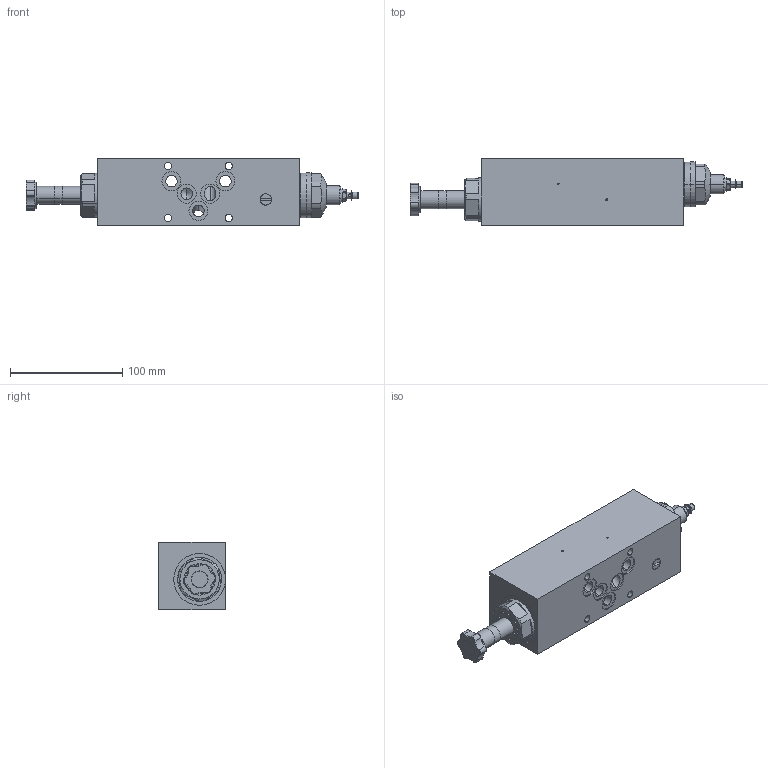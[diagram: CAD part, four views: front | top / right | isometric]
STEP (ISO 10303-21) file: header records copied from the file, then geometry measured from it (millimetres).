
FILE_DESCRIPTION (( 'STEP AP214' ), '1' );
FILE_NAME ('VQSSA10-AV.STEP', '2017-04-06T10:57:48', ( '' ), ( '' ), 'SwSTEP 2.0', 'SolidWorks 2016', '' );
FILE_SCHEMA (( 'AUTOMOTIVE_DESIGN' ));
Length unit declared in the file: millimetre
Products named in the file (1): VQSSA10-AV
Bounding box: 295.4 x 59.5 x 60 mm (x, y, z)
Volume: 666351.8 mm3; surface area: 77824.6 mm2
Topology: 5 solids, 5 shells, 375 faces, 892 edges, 547 vertices
Faces by surface type: cylinder 159, plane 106, cone 81, torus 29
Entity records: 15462 total; most frequent: CARTESIAN_POINT 2523, DIRECTION 1992, ORIENTED_EDGE 1756, EDGE_CURVE 878, AXIS2_PLACEMENT_3D 830, VERTEX_POINT 547, CIRCLE 454, EDGE_LOOP 429
